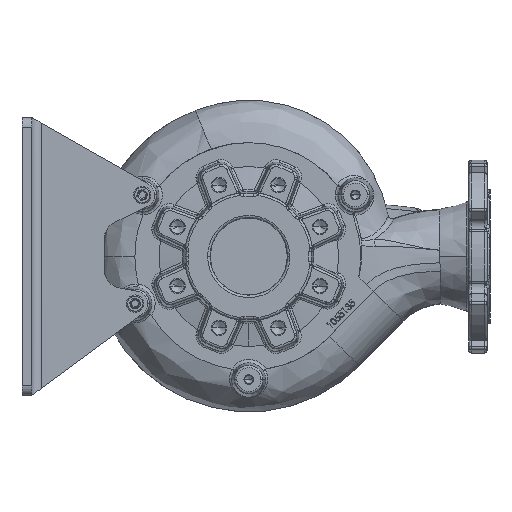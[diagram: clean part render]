
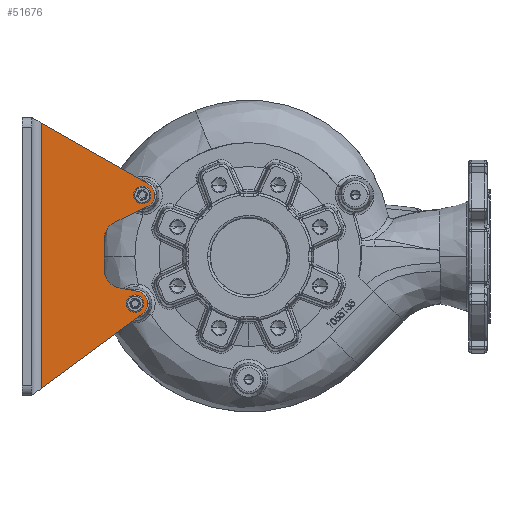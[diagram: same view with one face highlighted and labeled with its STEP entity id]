
A CAD part, front view. The second image highlights one B-rep face of the part: STEP entity #51676.
In plain terms, the highlighted planar face has unit normal (0, -1, 0).
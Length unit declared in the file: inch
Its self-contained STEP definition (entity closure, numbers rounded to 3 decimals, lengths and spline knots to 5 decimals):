
#2265 = DIRECTION ( 'NONE',  ( 0., 0., -1. ) ) ;
#3021 = EDGE_CURVE ( 'NONE', #75798, #73357, #132016, .T. ) ;
#5888 = EDGE_CURVE ( 'NONE', #73357, #89553, #7328, .T. ) ;
#6535 = DIRECTION ( 'NONE',  ( 0., 1., 0. ) ) ;
#7328 = LINE ( 'NONE', #71114, #110099 ) ;
#8155 = CARTESIAN_POINT ( 'NONE',  ( -4.34717, -15.92243, 2.50984 ) ) ;
#10229 = CARTESIAN_POINT ( 'NONE',  ( -5.90551, -15.92243, -1.1811 ) ) ;
#10247 = CARTESIAN_POINT ( 'NONE',  ( -5.46304, -15.92243, 1.39672 ) ) ;
#10421 = VERTEX_POINT ( 'NONE', #24522 ) ;
#10811 = EDGE_LOOP ( 'NONE', ( #96168, #136506, #160414, #161323, #81522, #55349, #123620, #125778, #132645, #105329 ) ) ;
#11857 = VERTEX_POINT ( 'NONE', #70264 ) ;
#13298 = CARTESIAN_POINT ( 'NONE',  ( -4.09379, -15.92243, 2.95453 ) ) ;
#13350 = LINE ( 'NONE', #135466, #44820 ) ;
#14310 = EDGE_CURVE ( 'NONE', #94195, #84647, #60469, .T. ) ;
#14391 = EDGE_CURVE ( 'NONE', #89553, #58222, #125430, .T. ) ;
#14506 = AXIS2_PLACEMENT_3D ( 'NONE', #120849, #40561, #134349 ) ;
#17121 = DIRECTION ( 'NONE',  ( 0., 0., 1. ) ) ;
#17946 = EDGE_CURVE ( 'NONE', #58222, #140518, #137193, .T. ) ;
#21624 = DIRECTION ( 'NONE',  ( 0.902, 0., -0.432 ) ) ;
#24522 = CARTESIAN_POINT ( 'NONE',  ( -4.54995, -15.92243, -1.4167 ) ) ;
#26552 = AXIS2_PLACEMENT_3D ( 'NONE', #86802, #6535, #100284 ) ;
#26869 = AXIS2_PLACEMENT_3D ( 'NONE', #158188, #77740, #171733 ) ;
#27951 = AXIS2_PLACEMENT_3D ( 'NONE', #8155, #101920, #21624 ) ;
#28161 = DIRECTION ( 'NONE',  ( 0.805, 0., 0.594 ) ) ;
#30455 = CARTESIAN_POINT ( 'NONE',  ( -5.25294, -15.92243, -1.29452 ) ) ;
#31090 = FACE_OUTER_BOUND ( 'NONE', #10811, .T. ) ;
#36959 = CARTESIAN_POINT ( 'NONE',  ( -4.51813, -15.92243, -1.58736 ) ) ;
#39429 = CIRCLE ( 'NONE', #26869, 0.35433 ) ;
#39782 = DIRECTION ( 'NONE',  ( -0.869, 0., 0.495 ) ) ;
#40428 = CARTESIAN_POINT ( 'NONE',  ( -8.46457, -15.92243, -5.37897 ) ) ;
#40561 = DIRECTION ( 'NONE',  ( 0., 1., 0. ) ) ;
#40847 = EDGE_CURVE ( 'NONE', #94195, #140518, #129690, .T. ) ;
#43812 = CARTESIAN_POINT ( 'NONE',  ( -8.46457, -15.92243, 5.44496 ) ) ;
#44820 = VECTOR ( 'NONE', #28161, 39.37008 ) ;
#45540 = ORIENTED_EDGE ( 'NONE', *, *, #64518, .T. ) ;
#48505 = EDGE_CURVE ( 'NONE', #10421, #75798, #84224, .T. ) ;
#51099 = CIRCLE ( 'NONE', #155310, 0.35433 ) ;
#51676 = ADVANCED_FACE ( 'NONE', ( #66720, #31090, #98220 ), #76215, .F. ) ;
#52565 = DIRECTION ( 'NONE',  ( 0., 0., -1. ) ) ;
#54071 = EDGE_LOOP ( 'NONE', ( #132324, #45540 ) ) ;
#55349 = ORIENTED_EDGE ( 'NONE', *, *, #5888, .T. ) ;
#56410 = VERTEX_POINT ( 'NONE', #36959 ) ;
#58222 = VERTEX_POINT ( 'NONE', #10247 ) ;
#60469 = LINE ( 'NONE', #120094, #163462 ) ;
#61494 = DIRECTION ( 'NONE',  ( 0., 1., 0. ) ) ;
#63474 = CIRCLE ( 'NONE', #27951, 0.35433 ) ;
#63837 = AXIS2_PLACEMENT_3D ( 'NONE', #157236, #76773, #170770 ) ;
#64518 = EDGE_CURVE ( 'NONE', #11857, #172712, #39429, .T. ) ;
#65815 = VECTOR ( 'NONE', #109869, 39.37008 ) ;
#66661 = CARTESIAN_POINT ( 'NONE',  ( -4.34717, -15.92243, 2.50984 ) ) ;
#66720 = FACE_BOUND ( 'NONE', #54071, .T. ) ;
#68118 = AXIS2_PLACEMENT_3D ( 'NONE', #163000, #82528, #2265 ) ;
#70264 = CARTESIAN_POINT ( 'NONE',  ( -4.66672, -15.92243, 2.66295 ) ) ;
#71114 = CARTESIAN_POINT ( 'NONE',  ( -5.90551, -15.92243, -1.1811 ) ) ;
#73357 = VERTEX_POINT ( 'NONE', #78004 ) ;
#75662 = EDGE_CURVE ( 'NONE', #125783, #80534, #13350, .T. ) ;
#75798 = VERTEX_POINT ( 'NONE', #30455 ) ;
#75917 = EDGE_CURVE ( 'NONE', #172712, #11857, #63474, .T. ) ;
#76215 = PLANE ( 'NONE',  #63837 ) ;
#76773 = DIRECTION ( 'NONE',  ( 0., 1., 0. ) ) ;
#77740 = DIRECTION ( 'NONE',  ( 0., 1., 0. ) ) ;
#78004 = CARTESIAN_POINT ( 'NONE',  ( -5.90551, -15.92243, -0.51875 ) ) ;
#80123 = EDGE_CURVE ( 'NONE', #125783, #84647, #82016, .T. ) ;
#80192 = DIRECTION ( 'NONE',  ( 0., 0., 1. ) ) ;
#80534 = VERTEX_POINT ( 'NONE', #155304 ) ;
#81522 = ORIENTED_EDGE ( 'NONE', *, *, #3021, .T. ) ;
#82016 = LINE ( 'NONE', #97421, #153434 ) ;
#82528 = DIRECTION ( 'NONE',  ( 0., 1., 0. ) ) ;
#83272 = AXIS2_PLACEMENT_3D ( 'NONE', #174171, #118874, #52565 ) ;
#84224 = LINE ( 'NONE', #10229, #155692 ) ;
#84647 = VERTEX_POINT ( 'NONE', #43812 ) ;
#86802 = CARTESIAN_POINT ( 'NONE',  ( -4.63758, -15.92243, -1.92095 ) ) ;
#89553 = VERTEX_POINT ( 'NONE', #112084 ) ;
#91648 = EDGE_CURVE ( 'NONE', #56410, #169567, #170828, .T. ) ;
#94195 = VERTEX_POINT ( 'NONE', #13298 ) ;
#94722 = EDGE_LOOP ( 'NONE', ( #170683, #123687 ) ) ;
#96168 = ORIENTED_EDGE ( 'NONE', *, *, #80123, .F. ) ;
#97421 = CARTESIAN_POINT ( 'NONE',  ( -8.46457, -15.92243, 5.66929 ) ) ;
#98220 = FACE_BOUND ( 'NONE', #94722, .T. ) ;
#99569 = EDGE_CURVE ( 'NONE', #10421, #80534, #138947, .T. ) ;
#100284 = DIRECTION ( 'NONE',  ( 0.337, 0., 0.941 ) ) ;
#101920 = DIRECTION ( 'NONE',  ( 0., 1., 0. ) ) ;
#103991 = DIRECTION ( 'NONE',  ( -0.985, 0., 0.171 ) ) ;
#105329 = ORIENTED_EDGE ( 'NONE', *, *, #14310, .T. ) ;
#109869 = DIRECTION ( 'NONE',  ( 0.899, 0., 0.438 ) ) ;
#110099 = VECTOR ( 'NONE', #165096, 39.37008 ) ;
#112084 = CARTESIAN_POINT ( 'NONE',  ( -5.90551, -15.92243, 0.68889 ) ) ;
#115251 = AXIS2_PLACEMENT_3D ( 'NONE', #66661, #160629, #80192 ) ;
#118874 = DIRECTION ( 'NONE',  ( 0., 1., 0. ) ) ;
#120094 = CARTESIAN_POINT ( 'NONE',  ( -8.85827, -15.92243, 5.66929 ) ) ;
#120849 = CARTESIAN_POINT ( 'NONE',  ( -4.63758, -15.92243, -1.92095 ) ) ;
#123620 = ORIENTED_EDGE ( 'NONE', *, *, #14391, .T. ) ;
#123687 = ORIENTED_EDGE ( 'NONE', *, *, #169357, .T. ) ;
#125430 = CIRCLE ( 'NONE', #68118, 0.7874 ) ;
#125778 = ORIENTED_EDGE ( 'NONE', *, *, #17946, .T. ) ;
#125783 = VERTEX_POINT ( 'NONE', #40428 ) ;
#129690 = CIRCLE ( 'NONE', #115251, 0.51181 ) ;
#132016 = CIRCLE ( 'NONE', #83272, 0.7874 ) ;
#132324 = ORIENTED_EDGE ( 'NONE', *, *, #75917, .T. ) ;
#132645 = ORIENTED_EDGE ( 'NONE', *, *, #40847, .F. ) ;
#134349 = DIRECTION ( 'NONE',  ( 0., 0., 1. ) ) ;
#134591 = CARTESIAN_POINT ( 'NONE',  ( -4.02763, -15.92243, 2.35674 ) ) ;
#135466 = CARTESIAN_POINT ( 'NONE',  ( -8.85827, -15.92243, -5.66929 ) ) ;
#136506 = ORIENTED_EDGE ( 'NONE', *, *, #75662, .T. ) ;
#137193 = LINE ( 'NONE', #163920, #65815 ) ;
#138947 = CIRCLE ( 'NONE', #14506, 0.51181 ) ;
#140518 = VERTEX_POINT ( 'NONE', #142904 ) ;
#141906 = CARTESIAN_POINT ( 'NONE',  ( -4.63758, -15.92243, -1.92095 ) ) ;
#142904 = CARTESIAN_POINT ( 'NONE',  ( -4.12297, -15.92243, 2.04975 ) ) ;
#148880 = CARTESIAN_POINT ( 'NONE',  ( -4.75704, -15.92243, -2.25454 ) ) ;
#153434 = VECTOR ( 'NONE', #17121, 39.37008 ) ;
#155304 = CARTESIAN_POINT ( 'NONE',  ( -4.33382, -15.92243, -2.33287 ) ) ;
#155310 = AXIS2_PLACEMENT_3D ( 'NONE', #141906, #61494, #155471 ) ;
#155471 = DIRECTION ( 'NONE',  ( 0.337, 0., 0.941 ) ) ;
#155692 = VECTOR ( 'NONE', #103991, 39.37008 ) ;
#157236 = CARTESIAN_POINT ( 'NONE',  ( -2.16535, -15.92243, 5.66929 ) ) ;
#158188 = CARTESIAN_POINT ( 'NONE',  ( -4.34717, -15.92243, 2.50984 ) ) ;
#160414 = ORIENTED_EDGE ( 'NONE', *, *, #99569, .F. ) ;
#160629 = DIRECTION ( 'NONE',  ( 0., 1., 0. ) ) ;
#161323 = ORIENTED_EDGE ( 'NONE', *, *, #48505, .T. ) ;
#163000 = CARTESIAN_POINT ( 'NONE',  ( -5.11811, -15.92243, 0.68889 ) ) ;
#163462 = VECTOR ( 'NONE', #39782, 39.37008 ) ;
#163920 = CARTESIAN_POINT ( 'NONE',  ( -5.90551, -15.92243, 1.1811 ) ) ;
#165096 = DIRECTION ( 'NONE',  ( 0., 0., 1. ) ) ;
#169357 = EDGE_CURVE ( 'NONE', #169567, #56410, #51099, .T. ) ;
#169567 = VERTEX_POINT ( 'NONE', #148880 ) ;
#170683 = ORIENTED_EDGE ( 'NONE', *, *, #91648, .T. ) ;
#170770 = DIRECTION ( 'NONE',  ( -1., 0., 0. ) ) ;
#170828 = CIRCLE ( 'NONE', #26552, 0.35433 ) ;
#171733 = DIRECTION ( 'NONE',  ( 0.902, 0., -0.432 ) ) ;
#172712 = VERTEX_POINT ( 'NONE', #134591 ) ;
#174171 = CARTESIAN_POINT ( 'NONE',  ( -5.11811, -15.92243, -0.51875 ) ) ;
